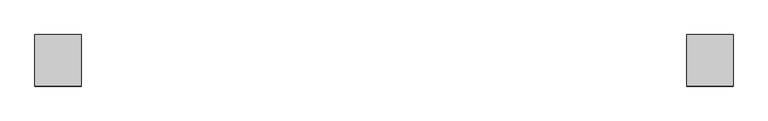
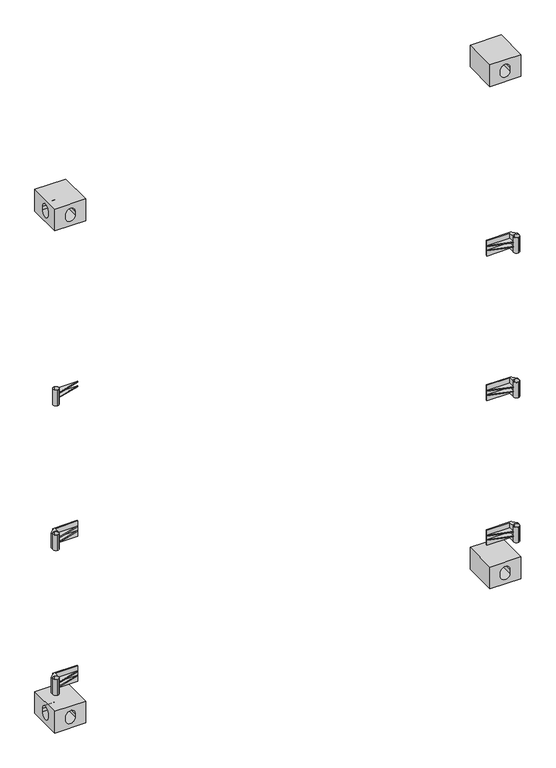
"""IFC4 building model written with IfcOpenShell, lengths in millimetres: proxy geometry, Left_Wall_Container_Config-6 : Left_Wall_Container_Config-6."""

from ifc_helpers import new_model, si_unit, point, frame, frame_2d, origin, place, context, project, spatial, polyline, circle_curve, ellipse_curve, trimmed, segment, composite_curve, outline, extrude, source, transform, mapped, element, save
from ifc_brep_helpers import plane_surface, revolved_surface, advanced_brep


def generic_models_3c25a827(model_context):
    return source(origin(), model_context, "Body", "SolidModel", [
        advanced_brep(
        [(-1058.3486818, 174.8052524, 119.9999973), (-1220.3486772, 174.8052524, 119.9999973), (-1220.3486772, -5.1947476, 119.9999973), (-1058.3486818, -5.1947476, 119.9999973), (-1058.3486818, 174.8052524, 0.0), (-1058.3486818, -5.1947476, 0.0), (-1220.3486772, -5.1947476, 0.0), (-1220.3486772, 174.8052524, 0.0), (-1162.8486759, -5.1947476, 69.9917931), (-1112.84868, -5.1947476, 69.9881397), (-1112.84868, -5.1947476, 49.9881397), (-1162.8486759, -5.1947476, 49.9917931), (-1220.3486772, 104.8052524, 70.0), (-1220.3486772, 54.8052524, 70.0), (-1220.3486772, 54.8052502, 50.0000004), (-1220.3486772, 104.8052524, 50.0), (-1162.3486772, 104.3052524, 45.0250628), (-1162.3486772, 55.3052524, 45.0250628), (-1162.3486772, 55.3052524, 74.9749372), (-1162.3486772, 104.3052524, 74.9749372), (-1162.8486772, 104.8052524, 70.0), (-1162.8486772, 54.8052524, 70.0), (-1162.8486759, 54.8052502, 50.0000004), (-1162.8486759, 104.8052524, 50.0), (-1112.84868, 104.8052551, 49.9881397), (-1112.84868, 104.8052551, 69.9881397)],
        [
            (0, 1),
            (1, 2),
            (2, 3),
            (3, 0),
            (4, 5),
            (5, 6),
            (6, 7),
            (7, 4),
            (3, 5),
            (4, 0),
            (2, 6),
            (8, 9, circle_curve(frame((-1137.8486772, -5.1947476, 70.0), z_axis=(0.0, 1.0, 0.0), x_axis=(-1.0, 0.0, 0.0)), 25.0)),
            (9, 10),
            (10, 11, circle_curve(frame((-1137.8486772, -5.1947476, 50.0), z_axis=(0.0, 1.0, 0.0), x_axis=(-1.0, 0.0, 0.0)), 25.0)),
            (11, 8),
            (1, 7),
            (12, 13, circle_curve(frame((-1220.3486772, 79.8052524, 70.0), z_axis=(1.0, 0.0, 0.0), x_axis=(0.0, -1.0, 0.0)), 25.0)),
            (13, 14),
            (14, 15, circle_curve(frame((-1220.3486772, 79.8052524, 50.0), z_axis=(1.0, 0.0, 0.0), x_axis=(0.0, -1.0, 0.0)), 25.0)),
            (15, 12),
            (16, 17, circle_curve(frame((-1162.3486772, 79.8052524, 50.0), z_axis=(-1.0, 0.0, 0.0), x_axis=(0.0, -1.0, 0.0)), 25.0)),
            (17, 16),
            (18, 19, circle_curve(frame((-1162.3486772, 79.8052524, 70.0), z_axis=(-1.0, 0.0, 0.0), x_axis=(0.0, -1.0, 0.0)), 25.0)),
            (19, 18),
            (12, 20),
            (20, 19, ellipse_curve(frame((-1137.8486772, 79.8052524, 70.0), z_axis=(0.707106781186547, 0.7071067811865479, 0.0), x_axis=(-0.707106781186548, 0.7071067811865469, 0.0)), 35.3553391, 25.0)),
            (18, 21, ellipse_curve(frame((-1137.8486772, 79.8052524, 70.0), z_axis=(0.707106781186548, -0.707106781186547, 0.0), x_axis=(-0.707106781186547, -0.7071067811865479, 0.0)), 35.3553391, 25.0)),
            (21, 13),
            (21, 22),
            (22, 14),
            (22, 17, ellipse_curve(frame((-1137.8486772, 79.8052524, 50.0), z_axis=(0.707106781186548, -0.707106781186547, 0.0), x_axis=(-0.707106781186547, -0.7071067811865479, 0.0)), 35.3553391, 25.0)),
            (16, 23, ellipse_curve(frame((-1137.8486772, 79.8052524, 50.0), z_axis=(0.707106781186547, 0.7071067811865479, 0.0), x_axis=(-0.707106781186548, 0.7071067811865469, 0.0)), 35.3553391, 25.0)),
            (23, 15),
            (23, 24, circle_curve(frame((-1137.8486772, 104.8052551, 50.0), z_axis=(0.0, -1.0, 0.0), x_axis=(-1.0, 0.0, 0.0)), 25.0)),
            (24, 25),
            (25, 20, circle_curve(frame((-1137.8486772, 104.8052551, 70.0), z_axis=(0.0, -1.0, 0.0), x_axis=(-1.0, 0.0, 0.0)), 25.0)),
            (25, 9),
            (8, 21),
            (11, 22),
            (10, 24),
        ],
        [
            plane_surface(frame((-1058.3486818, 174.8052524, 119.9999973), z_axis=(0.0, 0.0, 1.0), x_axis=(-1.0, 0.0, 0.0))),
            plane_surface(frame((-1058.3486818, 174.8052524, 0.0), z_axis=(0.0, 0.0, -1.0), x_axis=(1.0, 0.0, 0.0))),
            plane_surface(frame((-1058.3486818, -5.1947476, 119.9999973), z_axis=(1.0, 0.0, 0.0), x_axis=(0.0, 0.0, -1.0))),
            plane_surface(frame((-1220.3486772, -5.1947476, 119.9999973), z_axis=(0.0, -1.0, 0.0), x_axis=(0.0, 0.0, -1.0))),
            plane_surface(frame((-1220.3486772, 174.8052524, 119.9999973), z_axis=(-1.0, 0.0, 0.0), x_axis=(0.0, 0.0, -1.0))),
            plane_surface(frame((-1058.3486818, 174.8052524, 119.9999973), z_axis=(0.0, 1.0, 0.0), x_axis=(0.0, 0.0, -1.0))),
            plane_surface(frame((-1162.3486772, 104.8052551, 70.0000014), z_axis=(-1.0, 0.0, 0.0), x_axis=(0.0, 0.0, 1.0))),
            revolved_surface(polyline([(-1220.3486772, 54.8052524, 70.0), (-1112.8486771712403, 54.8052524, 70.0)]), (-1162.3486772, 79.8052524, 70.0), (-1.0, 0.0, 0.0)),
            plane_surface(frame((-1220.3486772, 54.8052502, 50.0000004), z_axis=(0.0, 1.0, 0.0), x_axis=(1.0, 0.0, 0.0))),
            revolved_surface(polyline([(-1220.3486772, 54.8052524, 50.0), (-1112.8486771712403, 54.8052524, 50.0)]), (-1162.3486772, 79.8052524, 50.0), (-1.0, 0.0, 0.0)),
            plane_surface(frame((-1220.3486772, 104.8052551, 70.0000014), z_axis=(0.0, -1.0, 0.0), x_axis=(1.0, 0.0, 0.0))),
            revolved_surface(polyline([(-1162.8486772, -5.1947475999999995, 70.0), (-1162.8486772, 104.8052551, 70.0)]), (-1137.8486772, 104.8052524, 70.0), (0.0, -1.0, 0.0)),
            plane_surface(frame((-1162.8486759, -5.1947476, 69.9917931), z_axis=(1.0, 0.0, 0.0), x_axis=(0.0, 1.0, 0.0))),
            revolved_surface(polyline([(-1162.8486772, -5.1947475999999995, 50.0), (-1162.8486772, 104.8052551, 50.0)]), (-1137.8486772, 104.8052524, 50.0), (0.0, -1.0, 0.0)),
            plane_surface(frame((-1112.84868, -5.1947476, 49.9881397), z_axis=(-1.0, 0.0, 0.0), x_axis=(0.0, 1.0, 0.0))),
        ],
        [
            (0, [[1, 2, 3, 4]]),
            (1, [[5, 6, 7, 8]]),
            (2, [[-4, 9, -5, 10]]),
            (3, [[-3, 11, -6, -9], [12, 13, 14, 15]]),
            (4, [[-2, 16, -7, -11], [17, 18, 19, 20]]),
            (5, [[-1, -10, -8, -16]]),
            (6, [[21, 22]]),
            (6, [[23, 24]]),
            (7, [[-17, 25, 26, -23, 27, 28]]),
            (8, [[-18, -28, 29, 30]]),
            (9, [[-19, -30, 31, -21, 32, 33]]),
            (10, [[-20, -33, 34, 35, 36, -25]]),
            (11, [[-36, 37, -12, 38, -27, -24, -26]]),
            (12, [[-38, -15, 39, -29]]),
            (13, [[-34, -32, -22, -31, -39, -14, 40]]),
            (14, [[-35, -40, -13, -37]]),
        ],
    ),
        advanced_brep(
        [(1057.6513273, 174.8052524, 119.9999973), (1057.6513273, -5.1947476, 119.9999973), (1219.6513228, -5.1947476, 119.9999973), (1219.6513228, 174.8052524, 119.9999973), (1057.6513273, 174.8052524, 0.0), (1219.6513228, 174.8052524, 0.0), (1219.6513228, -5.1947476, 0.0), (1057.6513273, -5.1947476, 0.0), (1162.1513214, -5.1947476, 69.9917931), (1162.1513214, -5.1947476, 49.9917931), (1112.1513256, -5.1947476, 49.9881397), (1112.1513256, -5.1947476, 69.9881397), (1219.6513228, 104.8052551, 70.0), (1219.6513228, 104.8052551, 50.0), (1219.6513228, 54.8052524, 50.0000004), (1219.6513228, 54.8052502, 70.0), (1161.6513228, 104.3052524, 45.0250628), (1161.6513228, 55.3052524, 45.0250628), (1161.6513228, 55.3052524, 74.9749372), (1161.6513228, 104.3052524, 74.9749372), (1162.1513228, 54.8052524, 70.0), (1162.1513228, 104.8052524, 70.0), (1162.1513214, 54.8052502, 50.0000004), (1162.1513214, 104.8052524, 50.0), (1112.1513256, 104.8052551, 69.9881397), (1112.1513256, 104.8052551, 49.9881397)],
        [
            (0, 1),
            (1, 2),
            (2, 3),
            (3, 0),
            (4, 5),
            (5, 6),
            (6, 7),
            (7, 4),
            (0, 4),
            (7, 1),
            (6, 2),
            (8, 9),
            (9, 10, circle_curve(frame((1137.1513228, -5.1947476, 50.0), z_axis=(0.0, 1.0, 0.0), x_axis=(1.0, 0.0, 0.0)), 25.0)),
            (10, 11),
            (11, 8, circle_curve(frame((1137.1513228, -5.1947476, 70.0), z_axis=(0.0, 1.0, 0.0), x_axis=(1.0, 0.0, 0.0)), 25.0)),
            (5, 3),
            (12, 13),
            (13, 14, circle_curve(frame((1219.6513228, 79.8052524, 50.0), z_axis=(-1.0, 0.0, 0.0), x_axis=(0.0, -1.0, 0.0)), 25.0)),
            (14, 15),
            (15, 12, circle_curve(frame((1219.6513228, 79.8052524, 70.0), z_axis=(-1.0, 0.0, 0.0), x_axis=(0.0, -1.0, 0.0)), 25.0)),
            (16, 17),
            (17, 16, circle_curve(frame((1161.6513228, 79.8052524, 50.0), z_axis=(1.0, 0.0, 0.0), x_axis=(0.0, -1.0, 0.0)), 25.0)),
            (18, 19),
            (19, 18, circle_curve(frame((1161.6513228, 79.8052524, 70.0), z_axis=(1.0, 0.0, 0.0), x_axis=(0.0, -1.0, 0.0)), 25.0)),
            (15, 20),
            (20, 18, ellipse_curve(frame((1137.1513228, 79.8052524, 70.0), z_axis=(-0.707106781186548, -0.707106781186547, 0.0), x_axis=(0.707106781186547, -0.7071067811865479, 0.0)), 35.3553391, 25.0)),
            (19, 21, ellipse_curve(frame((1137.1513228, 79.8052524, 70.0), z_axis=(-0.707106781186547, 0.7071067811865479, 0.0), x_axis=(0.707106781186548, 0.7071067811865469, 0.0)), 35.3553391, 25.0)),
            (21, 12),
            (14, 22),
            (22, 20),
            (13, 23),
            (23, 16, ellipse_curve(frame((1137.1513228, 79.8052524, 50.0), z_axis=(-0.707106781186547, 0.7071067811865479, 0.0), x_axis=(0.707106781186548, 0.7071067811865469, 0.0)), 35.3553391, 25.0)),
            (17, 22, ellipse_curve(frame((1137.1513228, 79.8052524, 50.0), z_axis=(-0.707106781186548, -0.707106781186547, 0.0), x_axis=(0.707106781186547, -0.7071067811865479, 0.0)), 35.3553391, 25.0)),
            (21, 24, circle_curve(frame((1137.1513228, 104.8052551, 70.0), z_axis=(0.0, -1.0, 0.0), x_axis=(1.0, 0.0, 0.0)), 25.0)),
            (24, 25),
            (25, 23, circle_curve(frame((1137.1513228, 104.8052551, 50.0), z_axis=(0.0, -1.0, 0.0), x_axis=(1.0, 0.0, 0.0)), 25.0)),
            (20, 8),
            (11, 24),
            (22, 9),
            (25, 10),
        ],
        [
            plane_surface(frame((1057.6513273, 174.8052524, 119.9999973), z_axis=(0.0, 0.0, 1.0), x_axis=(1.0, 0.0, 0.0))),
            plane_surface(frame((1057.6513273, 174.8052524, 0.0), z_axis=(0.0, 0.0, -1.0), x_axis=(-1.0, 0.0, 0.0))),
            plane_surface(frame((1057.6513273, -5.1947476, 119.9999973), z_axis=(-1.0, 0.0, 0.0), x_axis=(0.0, 0.0, -1.0))),
            plane_surface(frame((1219.6513228, -5.1947476, 119.9999973), z_axis=(0.0, -1.0, 0.0), x_axis=(0.0, 0.0, -1.0))),
            plane_surface(frame((1219.6513228, 174.8052524, 119.9999973), z_axis=(1.0, 0.0, 0.0), x_axis=(0.0, 0.0, -1.0))),
            plane_surface(frame((1057.6513273, 174.8052524, 119.9999973), z_axis=(0.0, 1.0, 0.0), x_axis=(0.0, 0.0, -1.0))),
            plane_surface(frame((1161.6513228, 104.8052551, 70.0000014), z_axis=(1.0, 0.0, 0.0), x_axis=(0.0, 0.0, 1.0))),
            revolved_surface(polyline([(1219.6513228, 54.8052524, 70.0), (1112.15132277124, 54.8052524, 70.0)]), (1161.6513228, 79.8052524, 70.0), (1.0, 0.0, 0.0)),
            plane_surface(frame((1219.6513228, 54.8052502, 50.0000004), z_axis=(0.0, 1.0, 0.0), x_axis=(-1.0, 0.0, 0.0))),
            revolved_surface(polyline([(1219.6513228, 54.8052524, 50.0), (1112.15132277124, 54.8052524, 50.0)]), (1161.6513228, 79.8052524, 50.0), (1.0, 0.0, 0.0)),
            plane_surface(frame((1219.6513228, 104.8052551, 70.0000014), z_axis=(0.0, -1.0, 0.0), x_axis=(-1.0, 0.0, 0.0))),
            revolved_surface(polyline([(1162.1513228, -5.1947475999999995, 70.0), (1162.1513228, 104.8052551, 70.0)]), (1137.1513228, 104.8052524, 70.0), (0.0, -1.0, 0.0)),
            plane_surface(frame((1162.1513214, -5.1947476, 69.9917931), z_axis=(-1.0, 0.0, 0.0), x_axis=(0.0, 1.0, 0.0))),
            revolved_surface(polyline([(1162.1513228, -5.1947475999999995, 50.0), (1162.1513228, 104.8052551, 50.0)]), (1137.1513228, 104.8052524, 50.0), (0.0, -1.0, 0.0)),
            plane_surface(frame((1112.1513256, -5.1947476, 49.9881397), z_axis=(1.0, 0.0, 0.0), x_axis=(0.0, 1.0, 0.0))),
        ],
        [
            (0, [[1, 2, 3, 4]]),
            (1, [[5, 6, 7, 8]]),
            (2, [[9, -8, 10, -1]]),
            (3, [[-10, -7, 11, -2], [12, 13, 14, 15]]),
            (4, [[-11, -6, 16, -3], [17, 18, 19, 20]]),
            (5, [[-16, -5, -9, -4]]),
            (6, [[21, 22]]),
            (6, [[23, 24]]),
            (7, [[25, 26, -24, 27, 28, -20]]),
            (8, [[29, 30, -25, -19]]),
            (9, [[31, 32, -22, 33, -29, -18]]),
            (10, [[-28, 34, 35, 36, -31, -17]]),
            (11, [[-27, -23, -26, 37, -15, 38, -34]]),
            (12, [[-30, 39, -12, -37]]),
            (13, [[40, -13, -39, -33, -21, -32, -36]]),
            (14, [[-38, -14, -40, -35]]),
        ],
    ),
        advanced_brep(
        [(-1058.3486818, 174.8052524, 2896.0), (-1220.3486772, 174.8052524, 2896.0), (-1220.3486772, -5.1947476, 2896.0), (-1058.3486818, -5.1947476, 2896.0), (-1058.3486818, 174.8052524, 2776.0000027), (-1058.3486818, -5.1947476, 2776.0000027), (-1220.3486772, -5.1947476, 2776.0000027), (-1220.3486772, 174.8052524, 2776.0000027), (-1162.8486759, -5.1947476, 2845.9917958), (-1112.84868, -5.1947476, 2845.9881424), (-1112.84868, -5.1947476, 2825.9881424), (-1162.8486759, -5.1947476, 2825.9917958), (-1220.3486772, 104.8052524, 2846.0000027), (-1220.3486772, 54.8052524, 2846.0000027), (-1220.3486772, 54.8052502, 2826.0000031), (-1220.3486772, 104.8052524, 2826.0000027), (-1162.3486772, 104.3052524, 2821.0250655), (-1162.3486772, 55.3052524, 2821.0250655), (-1162.3486772, 55.3052524, 2850.9749399), (-1162.3486772, 104.3052524, 2850.9749399), (-1162.8486772, 104.8052524, 2846.0000027), (-1162.8486772, 54.8052524, 2846.0000027), (-1162.8486759, 54.8052502, 2826.0000031), (-1162.8486759, 104.8052524, 2826.0000027), (-1112.84868, 104.8052551, 2825.9881424), (-1112.84868, 104.8052551, 2845.9881424)],
        [
            (0, 1),
            (1, 2),
            (2, 3),
            (3, 0),
            (4, 5),
            (5, 6),
            (6, 7),
            (7, 4),
            (3, 5),
            (4, 0),
            (2, 6),
            (8, 9, circle_curve(frame((-1137.8486772, -5.1947476, 2846.0000027), z_axis=(0.0, 1.0, 0.0), x_axis=(-1.0, 0.0, 0.0)), 25.0)),
            (9, 10),
            (10, 11, circle_curve(frame((-1137.8486772, -5.1947476, 2826.0000027), z_axis=(0.0, 1.0, 0.0), x_axis=(-1.0, 0.0, 0.0)), 25.0)),
            (11, 8),
            (1, 7),
            (12, 13, circle_curve(frame((-1220.3486772, 79.8052524, 2846.0000027), z_axis=(1.0, 0.0, 0.0), x_axis=(0.0, -1.0, 0.0)), 25.0)),
            (13, 14),
            (14, 15, circle_curve(frame((-1220.3486772, 79.8052524, 2826.0000027), z_axis=(1.0, 0.0, 0.0), x_axis=(0.0, -1.0, 0.0)), 25.0)),
            (15, 12),
            (16, 17, circle_curve(frame((-1162.3486772, 79.8052524, 2826.0000027), z_axis=(-1.0, 0.0, 0.0), x_axis=(0.0, -1.0, 0.0)), 25.0)),
            (17, 16),
            (18, 19, circle_curve(frame((-1162.3486772, 79.8052524, 2846.0000027), z_axis=(-1.0, 0.0, 0.0), x_axis=(0.0, -1.0, 0.0)), 25.0)),
            (19, 18),
            (12, 20),
            (20, 19, ellipse_curve(frame((-1137.8486772, 79.8052524, 2846.0000027), z_axis=(0.707106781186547, 0.7071067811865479, 0.0), x_axis=(-0.707106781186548, 0.7071067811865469, 0.0)), 35.3553391, 25.0)),
            (18, 21, ellipse_curve(frame((-1137.8486772, 79.8052524, 2846.0000027), z_axis=(0.707106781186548, -0.707106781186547, 0.0), x_axis=(-0.707106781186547, -0.7071067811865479, 0.0)), 35.3553391, 25.0)),
            (21, 13),
            (21, 22),
            (22, 14),
            (22, 17, ellipse_curve(frame((-1137.8486772, 79.8052524, 2826.0000027), z_axis=(0.707106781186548, -0.707106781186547, 0.0), x_axis=(-0.707106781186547, -0.7071067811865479, 0.0)), 35.3553391, 25.0)),
            (16, 23, ellipse_curve(frame((-1137.8486772, 79.8052524, 2826.0000027), z_axis=(0.707106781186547, 0.7071067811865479, 0.0), x_axis=(-0.707106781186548, 0.7071067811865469, 0.0)), 35.3553391, 25.0)),
            (23, 15),
            (23, 24, circle_curve(frame((-1137.8486772, 104.8052551, 2826.0000027), z_axis=(0.0, -1.0, 0.0), x_axis=(-1.0, 0.0, 0.0)), 25.0)),
            (24, 25),
            (25, 20, circle_curve(frame((-1137.8486772, 104.8052551, 2846.0000027), z_axis=(0.0, -1.0, 0.0), x_axis=(-1.0, 0.0, 0.0)), 25.0)),
            (25, 9),
            (8, 21),
            (11, 22),
            (10, 24),
        ],
        [
            plane_surface(frame((-1058.3486818, 174.8052524, 2896.0), z_axis=(0.0, 0.0, 1.0), x_axis=(-1.0, 0.0, 0.0))),
            plane_surface(frame((-1058.3486818, 174.8052524, 2776.0000027), z_axis=(0.0, 0.0, -1.0), x_axis=(1.0, 0.0, 0.0))),
            plane_surface(frame((-1058.3486818, -5.1947476, 2896.0), z_axis=(1.0, 0.0, 0.0), x_axis=(0.0, 0.0, -1.0))),
            plane_surface(frame((-1220.3486772, -5.1947476, 2896.0), z_axis=(0.0, -1.0, 0.0), x_axis=(0.0, 0.0, -1.0))),
            plane_surface(frame((-1220.3486772, 174.8052524, 2896.0), z_axis=(-1.0, 0.0, 0.0), x_axis=(0.0, 0.0, -1.0))),
            plane_surface(frame((-1058.3486818, 174.8052524, 2896.0), z_axis=(0.0, 1.0, 0.0), x_axis=(0.0, 0.0, -1.0))),
            plane_surface(frame((-1162.3486772, 104.8052551, 2846.0000042), z_axis=(-1.0, 0.0, 0.0), x_axis=(0.0, 0.0, 1.0))),
            revolved_surface(polyline([(-1220.3486772, 54.8052524, 2846.0000027), (-1112.8486771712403, 54.8052524, 2846.0000027)]), (-1162.3486772, 79.8052524, 2846.0000027), (-1.0, 0.0, 0.0)),
            plane_surface(frame((-1220.3486772, 54.8052502, 2826.0000031), z_axis=(0.0, 1.0, 0.0), x_axis=(1.0, 0.0, 0.0))),
            revolved_surface(polyline([(-1220.3486772, 54.8052524, 2826.0000027), (-1112.8486771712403, 54.8052524, 2826.0000027)]), (-1162.3486772, 79.8052524, 2826.0000027), (-1.0, 0.0, 0.0)),
            plane_surface(frame((-1220.3486772, 104.8052551, 2846.0000042), z_axis=(0.0, -1.0, 0.0), x_axis=(1.0, 0.0, 0.0))),
            revolved_surface(polyline([(-1162.8486772, -5.1947475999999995, 2846.0000027), (-1162.8486772, 104.8052551, 2846.0000027)]), (-1137.8486772, 104.8052524, 2846.0000027), (0.0, -1.0, 0.0)),
            plane_surface(frame((-1162.8486759, -5.1947476, 2845.9917958), z_axis=(1.0, 0.0, 0.0), x_axis=(0.0, 1.0, 0.0))),
            revolved_surface(polyline([(-1162.8486772, -5.1947475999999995, 2826.0000027), (-1162.8486772, 104.8052551, 2826.0000027)]), (-1137.8486772, 104.8052524, 2826.0000027), (0.0, -1.0, 0.0)),
            plane_surface(frame((-1112.84868, -5.1947476, 2825.9881424), z_axis=(-1.0, 0.0, 0.0), x_axis=(0.0, 1.0, 0.0))),
        ],
        [
            (0, [[1, 2, 3, 4]]),
            (1, [[5, 6, 7, 8]]),
            (2, [[-4, 9, -5, 10]]),
            (3, [[-3, 11, -6, -9], [12, 13, 14, 15]]),
            (4, [[-2, 16, -7, -11], [17, 18, 19, 20]]),
            (5, [[-1, -10, -8, -16]]),
            (6, [[21, 22]]),
            (6, [[23, 24]]),
            (7, [[-17, 25, 26, -23, 27, 28]]),
            (8, [[-18, -28, 29, 30]]),
            (9, [[-19, -30, 31, -21, 32, 33]]),
            (10, [[-20, -33, 34, 35, 36, -25]]),
            (11, [[-36, 37, -12, 38, -27, -24, -26]]),
            (12, [[-38, -15, 39, -29]]),
            (13, [[-34, -32, -22, -31, -39, -14, 40]]),
            (14, [[-35, -40, -13, -37]]),
        ],
    ),
        advanced_brep(
        [(1057.6513273, 174.8052524, 2896.0), (1057.6513273, -5.1947476, 2896.0), (1219.6513228, -5.1947476, 2896.0), (1219.6513228, 174.8052524, 2896.0), (1057.6513273, 174.8052524, 2776.0000027), (1219.6513228, 174.8052524, 2776.0000027), (1219.6513228, -5.1947476, 2776.0000027), (1057.6513273, -5.1947476, 2776.0000027), (1162.1513214, -5.1947476, 2845.9917958), (1162.1513214, -5.1947476, 2825.9917958), (1112.1513256, -5.1947476, 2825.9881424), (1112.1513256, -5.1947476, 2845.9881424), (1219.6513228, 104.8052551, 2846.0000027), (1219.6513228, 104.8052551, 2826.0000027), (1219.6513228, 54.8052524, 2826.0000031), (1219.6513228, 54.8052502, 2846.0000027), (1161.6513228, 104.3052524, 2821.0250655), (1161.6513228, 55.3052524, 2821.0250655), (1161.6513228, 55.3052524, 2850.9749399), (1161.6513228, 104.3052524, 2850.9749399), (1162.1513228, 54.8052524, 2846.0000027), (1162.1513228, 104.8052524, 2846.0000027), (1162.1513214, 54.8052502, 2826.0000031), (1162.1513214, 104.8052524, 2826.0000027), (1112.1513256, 104.8052551, 2845.9881424), (1112.1513256, 104.8052551, 2825.9881424)],
        [
            (0, 1),
            (1, 2),
            (2, 3),
            (3, 0),
            (4, 5),
            (5, 6),
            (6, 7),
            (7, 4),
            (0, 4),
            (7, 1),
            (6, 2),
            (8, 9),
            (9, 10, circle_curve(frame((1137.1513228, -5.1947476, 2826.0000027), z_axis=(0.0, 1.0, 0.0), x_axis=(1.0, 0.0, 0.0)), 25.0)),
            (10, 11),
            (11, 8, circle_curve(frame((1137.1513228, -5.1947476, 2846.0000027), z_axis=(0.0, 1.0, 0.0), x_axis=(1.0, 0.0, 0.0)), 25.0)),
            (5, 3),
            (12, 13),
            (13, 14, circle_curve(frame((1219.6513228, 79.8052524, 2826.0000027), z_axis=(-1.0, 0.0, 0.0), x_axis=(0.0, -1.0, 0.0)), 25.0)),
            (14, 15),
            (15, 12, circle_curve(frame((1219.6513228, 79.8052524, 2846.0000027), z_axis=(-1.0, 0.0, 0.0), x_axis=(0.0, -1.0, 0.0)), 25.0)),
            (16, 17),
            (17, 16, circle_curve(frame((1161.6513228, 79.8052524, 2826.0000027), z_axis=(1.0, 0.0, 0.0), x_axis=(0.0, -1.0, 0.0)), 25.0)),
            (18, 19),
            (19, 18, circle_curve(frame((1161.6513228, 79.8052524, 2846.0000027), z_axis=(1.0, 0.0, 0.0), x_axis=(0.0, -1.0, 0.0)), 25.0)),
            (15, 20),
            (20, 18, ellipse_curve(frame((1137.1513228, 79.8052524, 2846.0000027), z_axis=(-0.707106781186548, -0.707106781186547, 0.0), x_axis=(0.707106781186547, -0.7071067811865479, 0.0)), 35.3553391, 25.0)),
            (19, 21, ellipse_curve(frame((1137.1513228, 79.8052524, 2846.0000027), z_axis=(-0.707106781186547, 0.7071067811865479, 0.0), x_axis=(0.707106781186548, 0.7071067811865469, 0.0)), 35.3553391, 25.0)),
            (21, 12),
            (14, 22),
            (22, 20),
            (13, 23),
            (23, 16, ellipse_curve(frame((1137.1513228, 79.8052524, 2826.0000027), z_axis=(-0.707106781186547, 0.7071067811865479, 0.0), x_axis=(0.707106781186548, 0.7071067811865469, 0.0)), 35.3553391, 25.0)),
            (17, 22, ellipse_curve(frame((1137.1513228, 79.8052524, 2826.0000027), z_axis=(-0.707106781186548, -0.707106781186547, 0.0), x_axis=(0.707106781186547, -0.7071067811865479, 0.0)), 35.3553391, 25.0)),
            (21, 24, circle_curve(frame((1137.1513228, 104.8052551, 2846.0000027), z_axis=(0.0, -1.0, 0.0), x_axis=(1.0, 0.0, 0.0)), 25.0)),
            (24, 25),
            (25, 23, circle_curve(frame((1137.1513228, 104.8052551, 2826.0000027), z_axis=(0.0, -1.0, 0.0), x_axis=(1.0, 0.0, 0.0)), 25.0)),
            (20, 8),
            (11, 24),
            (22, 9),
            (25, 10),
        ],
        [
            plane_surface(frame((1057.6513273, 174.8052524, 2896.0), z_axis=(0.0, 0.0, 1.0), x_axis=(1.0, 0.0, 0.0))),
            plane_surface(frame((1057.6513273, 174.8052524, 2776.0000027), z_axis=(0.0, 0.0, -1.0), x_axis=(-1.0, 0.0, 0.0))),
            plane_surface(frame((1057.6513273, -5.1947476, 2896.0), z_axis=(-1.0, 0.0, 0.0), x_axis=(0.0, 0.0, -1.0))),
            plane_surface(frame((1219.6513228, -5.1947476, 2896.0), z_axis=(0.0, -1.0, 0.0), x_axis=(0.0, 0.0, -1.0))),
            plane_surface(frame((1219.6513228, 174.8052524, 2896.0), z_axis=(1.0, 0.0, 0.0), x_axis=(0.0, 0.0, -1.0))),
            plane_surface(frame((1057.6513273, 174.8052524, 2896.0), z_axis=(0.0, 1.0, 0.0), x_axis=(0.0, 0.0, -1.0))),
            plane_surface(frame((1161.6513228, 104.8052551, 2846.0000042), z_axis=(1.0, 0.0, 0.0), x_axis=(0.0, 0.0, 1.0))),
            revolved_surface(polyline([(1219.6513228, 54.8052524, 2846.0000027), (1112.15132277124, 54.8052524, 2846.0000027)]), (1161.6513228, 79.8052524, 2846.0000027), (1.0, 0.0, 0.0)),
            plane_surface(frame((1219.6513228, 54.8052502, 2826.0000031), z_axis=(0.0, 1.0, 0.0), x_axis=(-1.0, 0.0, 0.0))),
            revolved_surface(polyline([(1219.6513228, 54.8052524, 2826.0000027), (1112.15132277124, 54.8052524, 2826.0000027)]), (1161.6513228, 79.8052524, 2826.0000027), (1.0, 0.0, 0.0)),
            plane_surface(frame((1219.6513228, 104.8052551, 2846.0000042), z_axis=(0.0, -1.0, 0.0), x_axis=(-1.0, 0.0, 0.0))),
            revolved_surface(polyline([(1162.1513228, -5.1947475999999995, 2846.0000027), (1162.1513228, 104.8052551, 2846.0000027)]), (1137.1513228, 104.8052524, 2846.0000027), (0.0, -1.0, 0.0)),
            plane_surface(frame((1162.1513214, -5.1947476, 2845.9917958), z_axis=(-1.0, 0.0, 0.0), x_axis=(0.0, 1.0, 0.0))),
            revolved_surface(polyline([(1162.1513228, -5.1947475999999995, 2826.0000027), (1162.1513228, 104.8052551, 2826.0000027)]), (1137.1513228, 104.8052524, 2826.0000027), (0.0, -1.0, 0.0)),
            plane_surface(frame((1112.1513256, -5.1947476, 2825.9881424), z_axis=(1.0, 0.0, 0.0), x_axis=(0.0, 1.0, 0.0))),
        ],
        [
            (0, [[1, 2, 3, 4]]),
            (1, [[5, 6, 7, 8]]),
            (2, [[9, -8, 10, -1]]),
            (3, [[-10, -7, 11, -2], [12, 13, 14, 15]]),
            (4, [[-11, -6, 16, -3], [17, 18, 19, 20]]),
            (5, [[-16, -5, -9, -4]]),
            (6, [[21, 22]]),
            (6, [[23, 24]]),
            (7, [[25, 26, -24, 27, 28, -20]]),
            (8, [[29, 30, -25, -19]]),
            (9, [[31, 32, -22, 33, -29, -18]]),
            (10, [[-28, 34, 35, 36, -31, -17]]),
            (11, [[-27, -23, -26, 37, -15, 38, -34]]),
            (12, [[-30, 39, -12, -37]]),
            (13, [[40, -13, -39, -33, -21, -32, -36]]),
            (14, [[-38, -14, -40, -35]]),
        ],
    ),
        extrude(outline(composite_curve([segment(trimmed(circle_curve(frame_2d((1204.6513228, 9.8052437)), 15.0), [point((1204.6513228, -5.1947563))], [point((1204.6513228, 24.8052437))], False, "CARTESIAN"), True, "CONTINUOUS"), segment(trimmed(circle_curve(frame_2d((1204.6513228, 9.8052437)), 15.0), [point((1204.6513228, 24.8052437))], [point((1204.6513228, -5.1947563))], False, "CARTESIAN"), True, "CONTINUOUS")], self_intersect=False), holes=[composite_curve([segment(trimmed(circle_curve(frame_2d((1204.6513228, 9.8052437)), 14.0), [point((1204.6513228, -4.1947563))], [point((1204.6513228, 23.8052437))], True, "CARTESIAN"), True, "CONTINUOUS"), segment(trimmed(circle_curve(frame_2d((1204.6513228, 9.8052437)), 14.0), [point((1204.6513228, 23.8052437))], [point((1204.6513228, -4.1947563))], True, "CARTESIAN"), True, "CONTINUOUS")], self_intersect=False)]), frame((0.0, 0.0, 205.0), z_axis=(0.0, 0.0, 1.0), x_axis=(1.0, 0.0, 0.0)), (0.0, 0.0, 1.0), 85.0),
        extrude(outline(polyline([(1189.6513234, 9.8052437), (1069.6513216, 44.8052445), (1189.6513234, 44.8052445), (1189.6513234, 9.8052437)])), frame((0.0, 0.0, 233.0), z_axis=(0.0, 0.0, 1.0), x_axis=(1.0, 0.0, 0.0)), (0.0, 0.0, 1.0), 5.0),
        extrude(outline(polyline([(1189.6513234, 44.8052445), (1189.6513234, 9.8052437), (1069.6513216, 44.8052445), (1189.6513234, 44.8052445)])), frame((0.0, 0.0, 257.0), z_axis=(0.0, 0.0, 1.0), x_axis=(1.0, 0.0, 0.0)), (0.0, 0.0, 1.0), 5.0),
        advanced_brep(
        [(1189.6513234, 9.8007288, 290.0), (1219.6513228, 9.8052437, 290.0), (1219.6513228, 24.8052434, 290.0), (1199.6513217, 44.8052445, 290.0), (1199.6513217, 49.8052437, 290.0), (1069.6513216, 49.8052437, 290.0), (1069.6513216, 44.8052445, 290.0), (1189.6513234, 44.8052445, 290.0), (1189.6513234, 9.8097587, 205.0), (1189.6513234, 44.8052445, 205.0), (1069.6513216, 44.8052445, 205.0), (1069.6513216, 49.8052437, 205.0), (1199.6513217, 49.8052437, 205.0), (1199.6513217, 44.8052445, 205.0), (1219.6513228, 24.8052434, 205.0), (1219.6513228, 9.8052437, 205.0)],
        [
            (0, 1, circle_curve(frame((1204.6513228, 9.8052437, 290.0), z_axis=(0.0, 0.0, -1.0), x_axis=(-1.0, 0.0, 0.0)), 15.0)),
            (1, 2),
            (2, 3),
            (3, 4),
            (4, 5),
            (5, 6),
            (6, 7),
            (7, 0),
            (8, 9),
            (9, 10),
            (10, 11),
            (11, 12),
            (12, 13),
            (13, 14),
            (14, 15),
            (15, 8, circle_curve(frame((1204.6513228, 9.8052437, 205.0), z_axis=(0.0, 0.0, 1.0), x_axis=(-1.0, 0.0, 0.0)), 15.0)),
            (7, 9),
            (8, 0),
            (6, 10),
            (5, 11),
            (4, 12),
            (3, 13),
            (2, 14),
            (1, 15),
        ],
        [
            plane_surface(frame((1189.6513234, 44.8052445, 290.0), z_axis=(0.0, 0.0, 1.0), x_axis=(0.0, 1.0, 0.0))),
            plane_surface(frame((1189.6513234, 44.8052445, 205.0), z_axis=(0.0, 0.0, -1.0), x_axis=(0.0, -1.0, 0.0))),
            plane_surface(frame((1189.6513234, 9.8097587, 290.0), z_axis=(-1.0, 0.0, 0.0), x_axis=(0.0, 0.0, -1.0))),
            plane_surface(frame((1189.6513234, 44.8052445, 290.0), z_axis=(0.0, -1.0, 0.0), x_axis=(0.0, 0.0, -1.0))),
            plane_surface(frame((1069.6513216, 44.8052445, 290.0), z_axis=(-1.0, 0.0, 0.0), x_axis=(0.0, 0.0, -1.0))),
            plane_surface(frame((1069.6513216, 49.8052437, 290.0), z_axis=(0.0, 1.0, 0.0), x_axis=(0.0, 0.0, -1.0))),
            plane_surface(frame((1199.6513217, 49.8052437, 290.0), z_axis=(1.0, 0.0, 0.0), x_axis=(0.0, 0.0, -1.0))),
            plane_surface(frame((1199.6513217, 44.8052445, 290.0), z_axis=(0.7071067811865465, 0.7071067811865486, 0.0), x_axis=(0.0, 0.0, -1.0))),
            plane_surface(frame((1219.6513228, 24.8052434, 290.0), z_axis=(1.0, 0.0, 0.0), x_axis=(0.0, 0.0, -1.0))),
            revolved_surface(polyline([(1189.6513228, 9.8052437, 205.0), (1189.6513228, 9.8052437, 290.0)]), (1204.6513228, 9.8052437, 205.0), (0.0, 0.0, -1.0)),
        ],
        [
            (0, [[1, 2, 3, 4, 5, 6, 7, 8]]),
            (1, [[9, 10, 11, 12, 13, 14, 15, 16]]),
            (2, [[17, -9, 18, -8]]),
            (3, [[19, -10, -17, -7]]),
            (4, [[20, -11, -19, -6]]),
            (5, [[21, -12, -20, -5]]),
            (6, [[22, -13, -21, -4]]),
            (7, [[23, -14, -22, -3]]),
            (8, [[24, -15, -23, -2]]),
            (9, [[-18, -16, -24, -1]]),
        ],
    ),
        extrude(outline(composite_curve([segment(trimmed(circle_curve(frame_2d((-1205.3486772, 9.8052437)), 15.0), [point((-1205.3486772, -5.1947563))], [point((-1205.3486772, 24.8052437))], False, "CARTESIAN"), True, "CONTINUOUS"), segment(trimmed(circle_curve(frame_2d((-1205.3486772, 9.8052437)), 15.0), [point((-1205.3486772, 24.8052437))], [point((-1205.3486772, -5.1947563))], False, "CARTESIAN"), True, "CONTINUOUS")], self_intersect=False), holes=[composite_curve([segment(trimmed(circle_curve(frame_2d((-1205.3486772, 9.8052437)), 14.0), [point((-1205.3486772, -4.1947563))], [point((-1205.3486772, 23.8052437))], True, "CARTESIAN"), True, "CONTINUOUS"), segment(trimmed(circle_curve(frame_2d((-1205.3486772, 9.8052437)), 14.0), [point((-1205.3486772, 23.8052437))], [point((-1205.3486772, -4.1947563))], True, "CARTESIAN"), True, "CONTINUOUS")], self_intersect=False)]), frame((0.0, 0.0, 205.0), z_axis=(0.0, 0.0, 1.0), x_axis=(1.0, 0.0, 0.0)), (0.0, 0.0, 1.0), 85.0),
        extrude(outline(polyline([(-1190.3486779, 9.8052437), (-1190.3486779, 44.8052445), (-1070.3486761, 44.8052445), (-1190.3486779, 9.8052437)])), frame((0.0, 0.0, 233.0), z_axis=(0.0, 0.0, 1.0), x_axis=(1.0, 0.0, 0.0)), (0.0, 0.0, 1.0), 5.0),
        extrude(outline(polyline([(-1190.3486779, 44.8052445), (-1070.3486761, 44.8052445), (-1190.3486779, 9.8052437), (-1190.3486779, 44.8052445)])), frame((0.0, 0.0, 257.0), z_axis=(0.0, 0.0, 1.0), x_axis=(1.0, 0.0, 0.0)), (0.0, 0.0, 1.0), 5.0),
        advanced_brep(
        [(-1190.3486779, 9.8097587, 290.0), (-1190.3486779, 44.8052445, 290.0), (-1070.3486761, 44.8052445, 290.0), (-1070.3486761, 49.8052437, 290.0), (-1200.3486762, 49.8052437, 290.0), (-1200.3486762, 44.8052445, 290.0), (-1220.3486772, 24.8052434, 290.0), (-1220.3486772, 9.8052437, 290.0), (-1190.3486779, 9.8007288, 205.0), (-1220.3486772, 9.8052437, 205.0), (-1220.3486772, 24.8052434, 205.0), (-1200.3486762, 44.8052445, 205.0), (-1200.3486762, 49.8052437, 205.0), (-1070.3486761, 49.8052437, 205.0), (-1070.3486761, 44.8052445, 205.0), (-1190.3486779, 44.8052445, 205.0)],
        [
            (0, 1),
            (1, 2),
            (2, 3),
            (3, 4),
            (4, 5),
            (5, 6),
            (6, 7),
            (7, 0, circle_curve(frame((-1205.3486772, 9.8052437, 290.0), z_axis=(0.0, 0.0, -1.0), x_axis=(1.0, 0.0, 0.0)), 15.0)),
            (8, 9, circle_curve(frame((-1205.3486772, 9.8052437, 205.0), z_axis=(0.0, 0.0, 1.0), x_axis=(1.0, 0.0, 0.0)), 15.0)),
            (9, 10),
            (10, 11),
            (11, 12),
            (12, 13),
            (13, 14),
            (14, 15),
            (15, 8),
            (0, 8),
            (15, 1),
            (14, 2),
            (13, 3),
            (12, 4),
            (11, 5),
            (10, 6),
            (9, 7),
        ],
        [
            plane_surface(frame((-1190.3486779, 44.8052445, 290.0), z_axis=(0.0, 0.0, 1.0), x_axis=(0.0, 1.0, 0.0))),
            plane_surface(frame((-1190.3486779, 44.8052445, 205.0), z_axis=(0.0, 0.0, -1.0), x_axis=(0.0, -1.0, 0.0))),
            plane_surface(frame((-1190.3486779, 9.8097587, 290.0), z_axis=(1.0, 0.0, 0.0), x_axis=(0.0, 0.0, -1.0))),
            plane_surface(frame((-1190.3486779, 44.8052445, 290.0), z_axis=(0.0, -1.0, 0.0), x_axis=(0.0, 0.0, -1.0))),
            plane_surface(frame((-1070.3486761, 44.8052445, 290.0), z_axis=(1.0, 0.0, 0.0), x_axis=(0.0, 0.0, -1.0))),
            plane_surface(frame((-1070.3486761, 49.8052437, 290.0), z_axis=(0.0, 1.0, 0.0), x_axis=(0.0, 0.0, -1.0))),
            plane_surface(frame((-1200.3486762, 49.8052437, 290.0), z_axis=(-1.0, 0.0, 0.0), x_axis=(0.0, 0.0, -1.0))),
            plane_surface(frame((-1200.3486762, 44.8052445, 290.0), z_axis=(-0.7071067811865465, 0.7071067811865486, 0.0), x_axis=(0.0, 0.0, -1.0))),
            plane_surface(frame((-1220.3486772, 24.8052434, 290.0), z_axis=(-1.0, 0.0, 0.0), x_axis=(0.0, 0.0, -1.0))),
            revolved_surface(polyline([(-1190.3486772, 9.8052437, 205.0), (-1190.3486772, 9.8052437, 290.0)]), (-1205.3486772, 9.8052437, 205.0), (0.0, 0.0, -1.0)),
        ],
        [
            (0, [[1, 2, 3, 4, 5, 6, 7, 8]]),
            (1, [[9, 10, 11, 12, 13, 14, 15, 16]]),
            (2, [[-1, 17, -16, 18]]),
            (3, [[-2, -18, -15, 19]]),
            (4, [[-3, -19, -14, 20]]),
            (5, [[-4, -20, -13, 21]]),
            (6, [[-5, -21, -12, 22]]),
            (7, [[-6, -22, -11, 23]]),
            (8, [[-7, -23, -10, 24]]),
            (9, [[-8, -24, -9, -17]]),
        ],
    ),
        extrude(outline(composite_curve([segment(trimmed(circle_curve(frame_2d((1204.6513228, 9.8052437)), 15.0), [point((1204.6513228, -5.1947563))], [point((1204.6513228, 24.8052437))], False, "CARTESIAN"), True, "CONTINUOUS"), segment(trimmed(circle_curve(frame_2d((1204.6513228, 9.8052437)), 15.0), [point((1204.6513228, 24.8052437))], [point((1204.6513228, -5.1947563))], False, "CARTESIAN"), True, "CONTINUOUS")], self_intersect=False), holes=[composite_curve([segment(trimmed(circle_curve(frame_2d((1204.6513228, 9.8052437)), 14.0), [point((1204.6513228, -4.1947563))], [point((1204.6513228, 23.8052437))], True, "CARTESIAN"), True, "CONTINUOUS"), segment(trimmed(circle_curve(frame_2d((1204.6513228, 9.8052437)), 14.0), [point((1204.6513228, 23.8052437))], [point((1204.6513228, -4.1947563))], True, "CARTESIAN"), True, "CONTINUOUS")], self_intersect=False)]), frame((0.0, 0.0, 1005.0), z_axis=(0.0, 0.0, 1.0), x_axis=(1.0, 0.0, 0.0)), (0.0, 0.0, 1.0), 85.0),
        extrude(outline(polyline([(1189.6513234, 9.8052437), (1069.6513216, 44.8052445), (1189.6513234, 44.8052445), (1189.6513234, 9.8052437)])), frame((0.0, 0.0, 1033.0), z_axis=(0.0, 0.0, 1.0), x_axis=(1.0, 0.0, 0.0)), (0.0, 0.0, 1.0), 5.0),
        extrude(outline(polyline([(1189.6513234, 44.8052445), (1189.6513234, 9.8052437), (1069.6513216, 44.8052445), (1189.6513234, 44.8052445)])), frame((0.0, 0.0, 1057.0), z_axis=(0.0, 0.0, 1.0), x_axis=(1.0, 0.0, 0.0)), (0.0, 0.0, 1.0), 5.0),
        advanced_brep(
        [(1189.6513234, 9.8007288, 1090.0), (1219.6513228, 9.8052437, 1090.0), (1219.6513228, 24.8052434, 1090.0), (1199.6513217, 44.8052445, 1090.0), (1199.6513217, 49.8052437, 1090.0), (1069.6513216, 49.8052437, 1090.0), (1069.6513216, 44.8052445, 1090.0), (1189.6513234, 44.8052445, 1090.0), (1189.6513234, 9.8097587, 1005.0), (1189.6513234, 44.8052445, 1005.0), (1069.6513216, 44.8052445, 1005.0), (1069.6513216, 49.8052437, 1005.0), (1199.6513217, 49.8052437, 1005.0), (1199.6513217, 44.8052445, 1005.0), (1219.6513228, 24.8052434, 1005.0), (1219.6513228, 9.8052437, 1005.0)],
        [
            (0, 1, circle_curve(frame((1204.6513228, 9.8052437, 1090.0), z_axis=(0.0, 0.0, -1.0), x_axis=(-1.0, 0.0, 0.0)), 15.0)),
            (1, 2),
            (2, 3),
            (3, 4),
            (4, 5),
            (5, 6),
            (6, 7),
            (7, 0),
            (8, 9),
            (9, 10),
            (10, 11),
            (11, 12),
            (12, 13),
            (13, 14),
            (14, 15),
            (15, 8, circle_curve(frame((1204.6513228, 9.8052437, 1005.0), z_axis=(0.0, 0.0, 1.0), x_axis=(-1.0, 0.0, 0.0)), 15.0)),
            (7, 9),
            (8, 0),
            (6, 10),
            (5, 11),
            (4, 12),
            (3, 13),
            (2, 14),
            (1, 15),
        ],
        [
            plane_surface(frame((1189.6513234, 44.8052445, 1090.0), z_axis=(0.0, 0.0, 1.0), x_axis=(0.0, 1.0, 0.0))),
            plane_surface(frame((1189.6513234, 44.8052445, 1005.0), z_axis=(0.0, 0.0, -1.0), x_axis=(0.0, -1.0, 0.0))),
            plane_surface(frame((1189.6513234, 9.8097587, 1090.0), z_axis=(-1.0, 0.0, 0.0), x_axis=(0.0, 0.0, -1.0))),
            plane_surface(frame((1189.6513234, 44.8052445, 1090.0), z_axis=(0.0, -1.0, 0.0), x_axis=(0.0, 0.0, -1.0))),
            plane_surface(frame((1069.6513216, 44.8052445, 1090.0), z_axis=(-1.0, 0.0, 0.0), x_axis=(0.0, 0.0, -1.0))),
            plane_surface(frame((1069.6513216, 49.8052437, 1090.0), z_axis=(0.0, 1.0, 0.0), x_axis=(0.0, 0.0, -1.0))),
            plane_surface(frame((1199.6513217, 49.8052437, 1090.0), z_axis=(1.0, 0.0, 0.0), x_axis=(0.0, 0.0, -1.0))),
            plane_surface(frame((1199.6513217, 44.8052445, 1090.0), z_axis=(0.7071067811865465, 0.7071067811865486, 0.0), x_axis=(0.0, 0.0, -1.0))),
            plane_surface(frame((1219.6513228, 24.8052434, 1090.0), z_axis=(1.0, 0.0, 0.0), x_axis=(0.0, 0.0, -1.0))),
            revolved_surface(polyline([(1189.6513228, 9.8052437, 1005.0), (1189.6513228, 9.8052437, 1090.0)]), (1204.6513228, 9.8052437, 1005.0), (0.0, 0.0, -1.0)),
        ],
        [
            (0, [[1, 2, 3, 4, 5, 6, 7, 8]]),
            (1, [[9, 10, 11, 12, 13, 14, 15, 16]]),
            (2, [[17, -9, 18, -8]]),
            (3, [[19, -10, -17, -7]]),
            (4, [[20, -11, -19, -6]]),
            (5, [[21, -12, -20, -5]]),
            (6, [[22, -13, -21, -4]]),
            (7, [[23, -14, -22, -3]]),
            (8, [[24, -15, -23, -2]]),
            (9, [[-18, -16, -24, -1]]),
        ],
    ),
        extrude(outline(composite_curve([segment(trimmed(circle_curve(frame_2d((-1205.3486772, 9.8052437)), 15.0), [point((-1205.3486772, -5.1947563))], [point((-1205.3486772, 24.8052437))], False, "CARTESIAN"), True, "CONTINUOUS"), segment(trimmed(circle_curve(frame_2d((-1205.3486772, 9.8052437)), 15.0), [point((-1205.3486772, 24.8052437))], [point((-1205.3486772, -5.1947563))], False, "CARTESIAN"), True, "CONTINUOUS")], self_intersect=False), holes=[composite_curve([segment(trimmed(circle_curve(frame_2d((-1205.3486772, 9.8052437)), 14.0), [point((-1205.3486772, -4.1947563))], [point((-1205.3486772, 23.8052437))], True, "CARTESIAN"), True, "CONTINUOUS"), segment(trimmed(circle_curve(frame_2d((-1205.3486772, 9.8052437)), 14.0), [point((-1205.3486772, 23.8052437))], [point((-1205.3486772, -4.1947563))], True, "CARTESIAN"), True, "CONTINUOUS")], self_intersect=False)]), frame((0.0, 0.0, 1005.0), z_axis=(0.0, 0.0, 1.0), x_axis=(1.0, 0.0, 0.0)), (0.0, 0.0, 1.0), 85.0),
        extrude(outline(polyline([(-1190.3486779, 9.8052437), (-1190.3486779, 44.8052445), (-1070.3486761, 44.8052445), (-1190.3486779, 9.8052437)])), frame((0.0, 0.0, 1033.0), z_axis=(0.0, 0.0, 1.0), x_axis=(1.0, 0.0, 0.0)), (0.0, 0.0, 1.0), 5.0),
        extrude(outline(polyline([(-1190.3486779, 44.8052445), (-1070.3486761, 44.8052445), (-1190.3486779, 9.8052437), (-1190.3486779, 44.8052445)])), frame((0.0, 0.0, 1057.0), z_axis=(0.0, 0.0, 1.0), x_axis=(1.0, 0.0, 0.0)), (0.0, 0.0, 1.0), 5.0),
        advanced_brep(
        [(-1190.3486779, 9.8097587, 1090.0), (-1190.3486779, 44.8052445, 1090.0), (-1070.3486761, 44.8052445, 1090.0), (-1070.3486761, 49.8052437, 1090.0), (-1200.3486762, 49.8052437, 1090.0), (-1200.3486762, 44.8052445, 1090.0), (-1220.3486772, 24.8052434, 1090.0), (-1220.3486772, 9.8052437, 1090.0), (-1190.3486779, 9.8007288, 1005.0), (-1220.3486772, 9.8052437, 1005.0), (-1220.3486772, 24.8052434, 1005.0), (-1200.3486762, 44.8052445, 1005.0), (-1200.3486762, 49.8052437, 1005.0), (-1070.3486761, 49.8052437, 1005.0), (-1070.3486761, 44.8052445, 1005.0), (-1190.3486779, 44.8052445, 1005.0)],
        [
            (0, 1),
            (1, 2),
            (2, 3),
            (3, 4),
            (4, 5),
            (5, 6),
            (6, 7),
            (7, 0, circle_curve(frame((-1205.3486772, 9.8052437, 1090.0), z_axis=(0.0, 0.0, -1.0), x_axis=(1.0, 0.0, 0.0)), 15.0)),
            (8, 9, circle_curve(frame((-1205.3486772, 9.8052437, 1005.0), z_axis=(0.0, 0.0, 1.0), x_axis=(1.0, 0.0, 0.0)), 15.0)),
            (9, 10),
            (10, 11),
            (11, 12),
            (12, 13),
            (13, 14),
            (14, 15),
            (15, 8),
            (0, 8),
            (15, 1),
            (14, 2),
            (13, 3),
            (12, 4),
            (11, 5),
            (10, 6),
            (9, 7),
        ],
        [
            plane_surface(frame((-1190.3486779, 44.8052445, 1090.0), z_axis=(0.0, 0.0, 1.0), x_axis=(0.0, 1.0, 0.0))),
            plane_surface(frame((-1190.3486779, 44.8052445, 1005.0), z_axis=(0.0, 0.0, -1.0), x_axis=(0.0, -1.0, 0.0))),
            plane_surface(frame((-1190.3486779, 9.8097587, 1090.0), z_axis=(1.0, 0.0, 0.0), x_axis=(0.0, 0.0, -1.0))),
            plane_surface(frame((-1190.3486779, 44.8052445, 1090.0), z_axis=(0.0, -1.0, 0.0), x_axis=(0.0, 0.0, -1.0))),
            plane_surface(frame((-1070.3486761, 44.8052445, 1090.0), z_axis=(1.0, 0.0, 0.0), x_axis=(0.0, 0.0, -1.0))),
            plane_surface(frame((-1070.3486761, 49.8052437, 1090.0), z_axis=(0.0, 1.0, 0.0), x_axis=(0.0, 0.0, -1.0))),
            plane_surface(frame((-1200.3486762, 49.8052437, 1090.0), z_axis=(-1.0, 0.0, 0.0), x_axis=(0.0, 0.0, -1.0))),
            plane_surface(frame((-1200.3486762, 44.8052445, 1090.0), z_axis=(-0.7071067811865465, 0.7071067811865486, 0.0), x_axis=(0.0, 0.0, -1.0))),
            plane_surface(frame((-1220.3486772, 24.8052434, 1090.0), z_axis=(-1.0, 0.0, 0.0), x_axis=(0.0, 0.0, -1.0))),
            revolved_surface(polyline([(-1190.3486772, 9.8052437, 1005.0), (-1190.3486772, 9.8052437, 1090.0)]), (-1205.3486772, 9.8052437, 1005.0), (0.0, 0.0, -1.0)),
        ],
        [
            (0, [[1, 2, 3, 4, 5, 6, 7, 8]]),
            (1, [[9, 10, 11, 12, 13, 14, 15, 16]]),
            (2, [[-1, 17, -16, 18]]),
            (3, [[-2, -18, -15, 19]]),
            (4, [[-3, -19, -14, 20]]),
            (5, [[-4, -20, -13, 21]]),
            (6, [[-5, -21, -12, 22]]),
            (7, [[-6, -22, -11, 23]]),
            (8, [[-7, -23, -10, 24]]),
            (9, [[-8, -24, -9, -17]]),
        ],
    ),
        extrude(outline(composite_curve([segment(trimmed(circle_curve(frame_2d((1204.6513228, 9.8052437)), 15.0), [point((1204.6513228, -5.1947563))], [point((1204.6513228, 24.8052437))], False, "CARTESIAN"), True, "CONTINUOUS"), segment(trimmed(circle_curve(frame_2d((1204.6513228, 9.8052437)), 15.0), [point((1204.6513228, 24.8052437))], [point((1204.6513228, -5.1947563))], False, "CARTESIAN"), True, "CONTINUOUS")], self_intersect=False), holes=[composite_curve([segment(trimmed(circle_curve(frame_2d((1204.6513228, 9.8052437)), 14.0), [point((1204.6513228, -4.1947563))], [point((1204.6513228, 23.8052437))], True, "CARTESIAN"), True, "CONTINUOUS"), segment(trimmed(circle_curve(frame_2d((1204.6513228, 9.8052437)), 14.0), [point((1204.6513228, 23.8052437))], [point((1204.6513228, -4.1947563))], True, "CARTESIAN"), True, "CONTINUOUS")], self_intersect=False)]), frame((0.0, 0.0, 1805.0), z_axis=(0.0, 0.0, 1.0), x_axis=(1.0, 0.0, 0.0)), (0.0, 0.0, 1.0), 85.0),
        extrude(outline(polyline([(1189.6513234, 9.8052437), (1069.6513216, 44.8052445), (1189.6513234, 44.8052445), (1189.6513234, 9.8052437)])), frame((0.0, 0.0, 1833.0), z_axis=(0.0, 0.0, 1.0), x_axis=(1.0, 0.0, 0.0)), (0.0, 0.0, 1.0), 5.0),
        extrude(outline(polyline([(1189.6513234, 44.8052445), (1189.6513234, 9.8052437), (1069.6513216, 44.8052445), (1189.6513234, 44.8052445)])), frame((0.0, 0.0, 1857.0), z_axis=(0.0, 0.0, 1.0), x_axis=(1.0, 0.0, 0.0)), (0.0, 0.0, 1.0), 5.0),
        advanced_brep(
        [(1189.6513234, 9.8007288, 1890.0), (1219.6513228, 9.8052437, 1890.0), (1219.6513228, 24.8052434, 1890.0), (1199.6513217, 44.8052445, 1890.0), (1199.6513217, 49.8052437, 1890.0), (1069.6513216, 49.8052437, 1890.0), (1069.6513216, 44.8052445, 1890.0), (1189.6513234, 44.8052445, 1890.0), (1189.6513234, 9.8097587, 1805.0), (1189.6513234, 44.8052445, 1805.0), (1069.6513216, 44.8052445, 1805.0), (1069.6513216, 49.8052437, 1805.0), (1199.6513217, 49.8052437, 1805.0), (1199.6513217, 44.8052445, 1805.0), (1219.6513228, 24.8052434, 1805.0), (1219.6513228, 9.8052437, 1805.0)],
        [
            (0, 1, circle_curve(frame((1204.6513228, 9.8052437, 1890.0), z_axis=(0.0, 0.0, -1.0), x_axis=(-1.0, 0.0, 0.0)), 15.0)),
            (1, 2),
            (2, 3),
            (3, 4),
            (4, 5),
            (5, 6),
            (6, 7),
            (7, 0),
            (8, 9),
            (9, 10),
            (10, 11),
            (11, 12),
            (12, 13),
            (13, 14),
            (14, 15),
            (15, 8, circle_curve(frame((1204.6513228, 9.8052437, 1805.0), z_axis=(0.0, 0.0, 1.0), x_axis=(-1.0, 0.0, 0.0)), 15.0)),
            (7, 9),
            (8, 0),
            (6, 10),
            (5, 11),
            (4, 12),
            (3, 13),
            (2, 14),
            (1, 15),
        ],
        [
            plane_surface(frame((1189.6513234, 44.8052445, 1890.0), z_axis=(0.0, 0.0, 1.0), x_axis=(0.0, 1.0, 0.0))),
            plane_surface(frame((1189.6513234, 44.8052445, 1805.0), z_axis=(0.0, 0.0, -1.0), x_axis=(0.0, -1.0, 0.0))),
            plane_surface(frame((1189.6513234, 9.8097587, 1890.0), z_axis=(-1.0, 0.0, 0.0), x_axis=(0.0, 0.0, -1.0))),
            plane_surface(frame((1189.6513234, 44.8052445, 1890.0), z_axis=(0.0, -1.0, 0.0), x_axis=(0.0, 0.0, -1.0))),
            plane_surface(frame((1069.6513216, 44.8052445, 1890.0), z_axis=(-1.0, 0.0, 0.0), x_axis=(0.0, 0.0, -1.0))),
            plane_surface(frame((1069.6513216, 49.8052437, 1890.0), z_axis=(0.0, 1.0, 0.0), x_axis=(0.0, 0.0, -1.0))),
            plane_surface(frame((1199.6513217, 49.8052437, 1890.0), z_axis=(1.0, 0.0, 0.0), x_axis=(0.0, 0.0, -1.0))),
            plane_surface(frame((1199.6513217, 44.8052445, 1890.0), z_axis=(0.7071067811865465, 0.7071067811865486, 0.0), x_axis=(0.0, 0.0, -1.0))),
            plane_surface(frame((1219.6513228, 24.8052434, 1890.0), z_axis=(1.0, 0.0, 0.0), x_axis=(0.0, 0.0, -1.0))),
            revolved_surface(polyline([(1189.6513228, 9.8052437, 1805.0), (1189.6513228, 9.8052437, 1890.0)]), (1204.6513228, 9.8052437, 1805.0), (0.0, 0.0, -1.0)),
        ],
        [
            (0, [[1, 2, 3, 4, 5, 6, 7, 8]]),
            (1, [[9, 10, 11, 12, 13, 14, 15, 16]]),
            (2, [[17, -9, 18, -8]]),
            (3, [[19, -10, -17, -7]]),
            (4, [[20, -11, -19, -6]]),
            (5, [[21, -12, -20, -5]]),
            (6, [[22, -13, -21, -4]]),
            (7, [[23, -14, -22, -3]]),
            (8, [[24, -15, -23, -2]]),
            (9, [[-18, -16, -24, -1]]),
        ],
    ),
        extrude(outline(composite_curve([segment(trimmed(circle_curve(frame_2d((-1205.3486772, 9.8052437)), 15.0), [point((-1205.3486772, -5.1947563))], [point((-1205.3486772, 24.8052437))], False, "CARTESIAN"), True, "CONTINUOUS"), segment(trimmed(circle_curve(frame_2d((-1205.3486772, 9.8052437)), 15.0), [point((-1205.3486772, 24.8052437))], [point((-1205.3486772, -5.1947563))], False, "CARTESIAN"), True, "CONTINUOUS")], self_intersect=False), holes=[composite_curve([segment(trimmed(circle_curve(frame_2d((-1205.3486772, 9.8052437)), 14.0), [point((-1205.3486772, -4.1947563))], [point((-1205.3486772, 23.8052437))], True, "CARTESIAN"), True, "CONTINUOUS"), segment(trimmed(circle_curve(frame_2d((-1205.3486772, 9.8052437)), 14.0), [point((-1205.3486772, 23.8052437))], [point((-1205.3486772, -4.1947563))], True, "CARTESIAN"), True, "CONTINUOUS")], self_intersect=False)]), frame((0.0, 0.0, 1805.0), z_axis=(0.0, 0.0, 1.0), x_axis=(1.0, 0.0, 0.0)), (0.0, 0.0, 1.0), 85.0),
        extrude(outline(polyline([(-1190.3486779, 9.8052437), (-1190.3486779, 44.8052445), (-1070.3486761, 44.8052445), (-1190.3486779, 9.8052437)])), frame((0.0, 0.0, 1833.0), z_axis=(0.0, 0.0, 1.0), x_axis=(1.0, 0.0, 0.0)), (0.0, 0.0, 1.0), 5.0),
        extrude(outline(polyline([(-1190.3486779, 44.8052445), (-1070.3486761, 44.8052445), (-1190.3486779, 9.8052437), (-1190.3486779, 44.8052445)])), frame((0.0, 0.0, 1857.0), z_axis=(0.0, 0.0, 1.0), x_axis=(1.0, 0.0, 0.0)), (0.0, 0.0, 1.0), 5.0),
    ])


if __name__ == "__main__":
    model = new_model("IFC4")
    model_context = context("Model", 3, world=origin())
    ifc_project = project(units=[si_unit("LENGTHUNIT", "METRE", prefix="MILLI")], contexts=[model_context])
    site = spatial("IfcSite", under=ifc_project)
    building = spatial("IfcBuilding", under=site)
    placement = place(None, origin())
    generic_models_shape = generic_models_3c25a827(model_context)
    element("IfcBuildingElementProxy", 1, Name="Left_Wall_Container_Config-6 : Left_Wall_Container_Config-6", ObjectType="Left_Wall_Container_Config-6 : Left_Wall_Container_Config-6", at=placement, inside=building, context=model_context, shape_type="MappedRepresentation", body=[
        mapped(generic_models_shape, transform((0.0, 0.0, 0.0), x_axis=(1.0, 0.0, 0.0), y_axis=(0.0, 1.0, 0.0), z_axis=(0.0, 0.0, 1.0))),
    ])
    save(model, "model.ifc")
